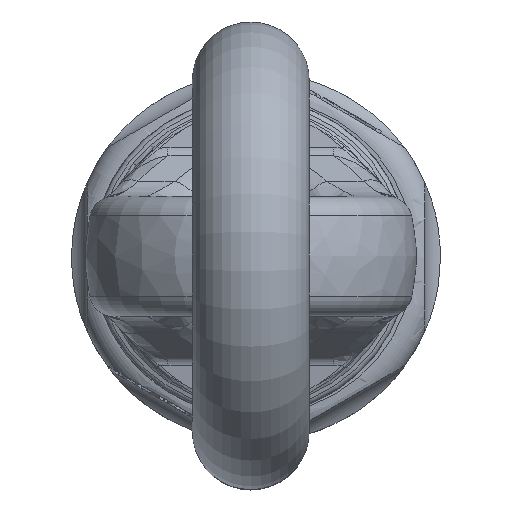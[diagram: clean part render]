
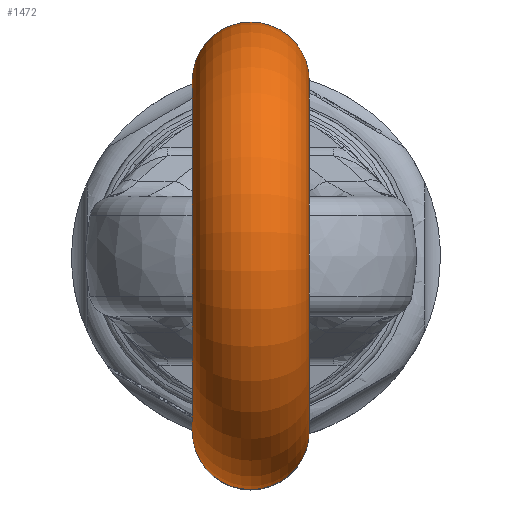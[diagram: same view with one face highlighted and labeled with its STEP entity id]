
A CAD part, top view. The second image highlights one B-rep face of the part: STEP entity #1472.
In plain terms, the highlighted toroidal (fillet/blend) face has major radius 67.5 mm and minor radius 22.5 mm.
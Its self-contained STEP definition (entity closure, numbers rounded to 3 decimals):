
#1472=ADVANCED_FACE('',(#1772,#1773),#1751,.T.);
#1751=TOROIDAL_SURFACE('',#4758,67.5,22.5);
#1772=FACE_BOUND('',#1843,.T.);
#1773=FACE_BOUND('',#1844,.T.);
#1843=EDGE_LOOP('',(#2164));
#1844=EDGE_LOOP('',(#2165));
#2164=ORIENTED_EDGE('',*,*,#3936,.F.);
#2165=ORIENTED_EDGE('',*,*,#3937,.F.);
#3502=VERTEX_POINT('',#6051);
#3503=VERTEX_POINT('',#6053);
#3936=EDGE_CURVE('',#3502,#3502,#4605,.T.);
#3937=EDGE_CURVE('',#3503,#3503,#4606,.T.);
#4605=CIRCLE('',#4756,22.5);
#4606=CIRCLE('',#4757,22.5);
#4756=AXIS2_PLACEMENT_3D('',#6050,#5091,#5092);
#4757=AXIS2_PLACEMENT_3D('',#6052,#5093,#5094);
#4758=AXIS2_PLACEMENT_3D('',#6054,#5095,#5096);
#5091=DIRECTION('',(0.,0.,-1.));
#5092=DIRECTION('',(-1.,0.,0.));
#5093=DIRECTION('',(0.,0.,-1.));
#5094=DIRECTION('',(-1.,0.,0.));
#5095=DIRECTION('',(-1.,0.,0.));
#5096=DIRECTION('',(0.,-1.,0.));
#6050=CARTESIAN_POINT('',(0.,-67.5,206.233));
#6051=CARTESIAN_POINT('',(-22.5,-67.5,206.233));
#6052=CARTESIAN_POINT('',(0.,67.5,206.233));
#6053=CARTESIAN_POINT('',(-22.5,67.5,206.233));
#6054=CARTESIAN_POINT('',(0.,0.,206.233));
